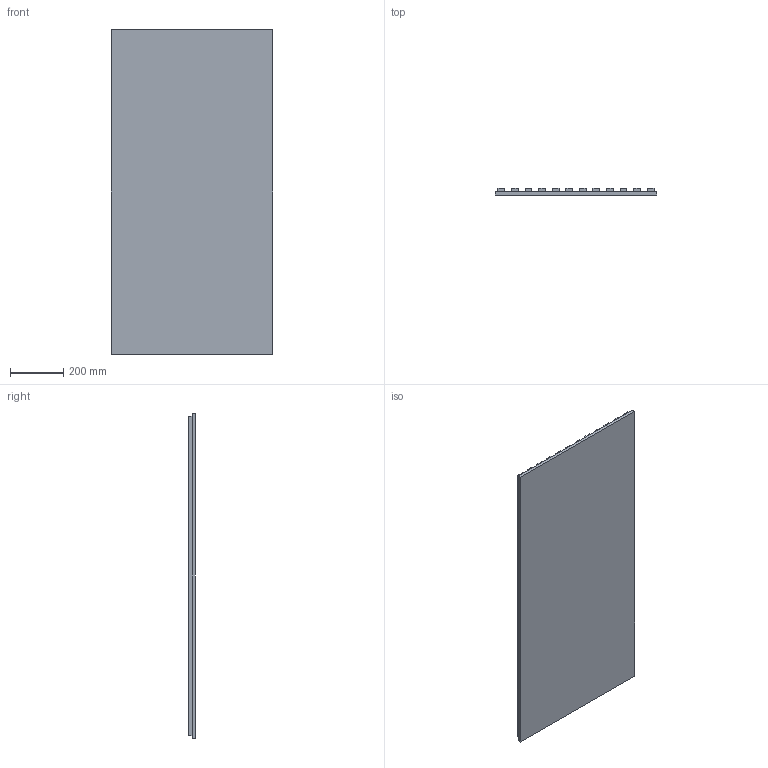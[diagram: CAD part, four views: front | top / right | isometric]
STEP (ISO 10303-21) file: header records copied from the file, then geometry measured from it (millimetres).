
FILE_DESCRIPTION(/* description */ (''),/* implementation_level */ '2;1');
FILE_NAME(/* name */ 'C:\Users\Grant Baker\Desktop\Projects\Slatta\Slatta_Tile_2x4_0.50_Long.stp',/* time_stamp */ '2024-03-19T10:09:12-05:00',/* author */ ('Grant Baker'),/* organization */ (''),/* preprocessor_version */ 'ST-DEVELOPER v19',/* originating_system */ 'Autodesk Inventor 2023',/* authorisation */ '');
FILE_SCHEMA (('AUTOMOTIVE_DESIGN { 1 0 10303 214 3 1 1 }'));
Length unit declared in the file: inch
Products named in the file (3): Slatta_Tile_2x4_0.50_Long; Slatta_Tile - Backer; Slatta_Tile - Slat
Assembly tree (13 placements, depth 2):
  Slatta_Tile_2x4_0.50_Long
    Slatta_Tile - Backer
    Slatta_Tile - Slat  x12
Bounding box: 603.25 x 25.4 x 1212.85 mm (x, y, z)
Volume: 13913129.4 mm3; surface area: 2608785.1 mm2
Topology: 13 solids, 13 shells, 78 faces, 156 edges, 104 vertices
Faces by surface type: plane 78
Entity records: 505 total; most frequent: DIRECTION 80, CARTESIAN_POINT 68, ORIENTED_EDGE 48, AXIS2_PLACEMENT_3D 28, LINE 24, VECTOR 24, EDGE_CURVE 24, VERTEX_POINT 16
